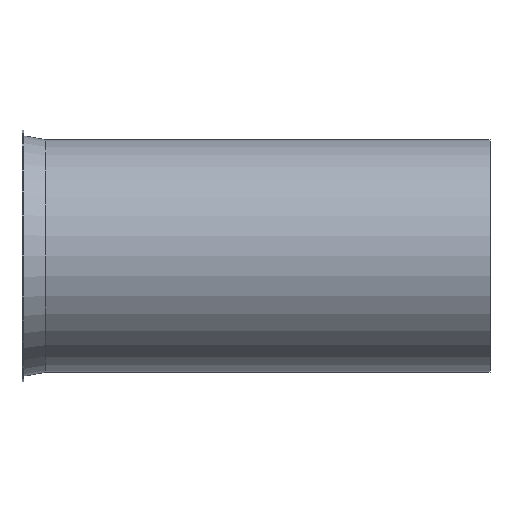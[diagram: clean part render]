
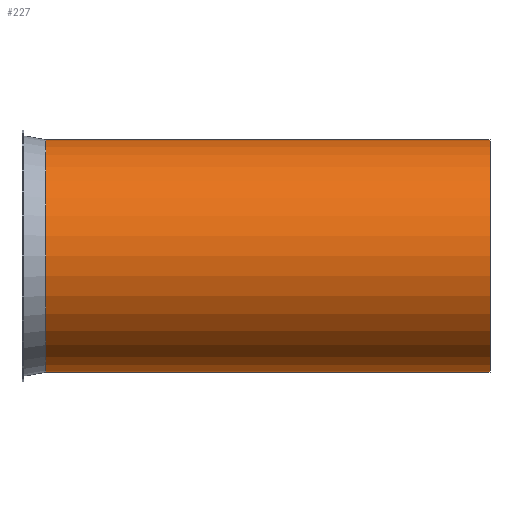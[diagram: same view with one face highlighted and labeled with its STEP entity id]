
A CAD part, front view. The second image highlights one B-rep face of the part: STEP entity #227.
In plain terms, the highlighted cylindrical face has radius 122.5 mm (diameter 245 mm), a full revolution.
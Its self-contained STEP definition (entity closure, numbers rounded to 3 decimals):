
#132=CARTESIAN_POINT('',(-2.081,46.834,0.0));
#133=VERTEX_POINT('',#132);
#134=CARTESIAN_POINT('',(-2.081,169.334,0.0));
#135=DIRECTION('',(-1.0,0.0,0.0));
#136=DIRECTION('',(0.0,-1.0,0.0));
#137=AXIS2_PLACEMENT_3D('',#134,#135,#136);
#138=CIRCLE('',#137,122.5);
#139=EDGE_CURVE('',#133,#133,#138,.T.);
#201=CARTESIAN_POINT('',(465.919,46.834,0.0));
#202=VERTEX_POINT('',#201);
#203=CARTESIAN_POINT('',(465.919,169.334,0.0));
#204=DIRECTION('',(-1.0,0.0,0.0));
#205=DIRECTION('',(0.0,-1.0,0.0));
#206=AXIS2_PLACEMENT_3D('',#203,#204,#205);
#207=CIRCLE('',#206,122.5);
#208=EDGE_CURVE('',#202,#202,#207,.T.);
#216=CARTESIAN_POINT('',(231.919,169.334,0.0));
#217=DIRECTION('',(-1.0,0.,0.0));
#218=DIRECTION('',(0.0,-1.0,0.0));
#219=AXIS2_PLACEMENT_3D('',#216,#217,#218);
#220=CYLINDRICAL_SURFACE('',#219,122.5);
#221=ORIENTED_EDGE('',*,*,#139,.F.);
#222=EDGE_LOOP('',(#221));
#223=FACE_OUTER_BOUND('',#222,.T.);
#224=ORIENTED_EDGE('',*,*,#208,.T.);
#225=EDGE_LOOP('',(#224));
#226=FACE_BOUND('',#225,.T.);
#227=ADVANCED_FACE('',(#223,#226),#220,.T.);
